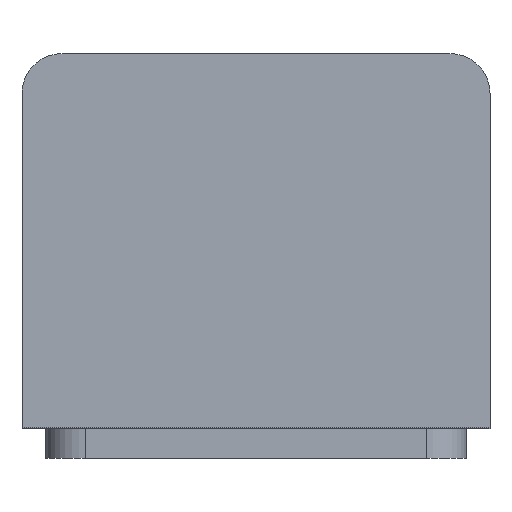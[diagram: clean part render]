
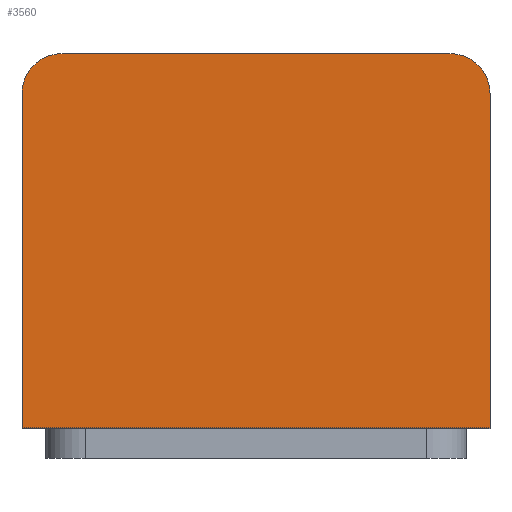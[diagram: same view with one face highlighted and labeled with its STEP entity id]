
A CAD part, top view. The second image highlights one B-rep face of the part: STEP entity #3560.
In plain terms, the highlighted planar face has unit normal (0, 0, 1).
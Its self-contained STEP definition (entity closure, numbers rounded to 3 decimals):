
#2785=FACE_OUTER_BOUND('',#4519,.T.);
#3560=ADVANCED_FACE('',(#2785),#4015,.T.);
#4015=PLANE('',#12070);
#4519=EDGE_LOOP('',(#7131,#7132,#7133,#7134,#7135,#7136));
#5051=LINE('',#14448,#5963);
#5069=LINE('',#15066,#5981);
#5078=LINE('',#15108,#5990);
#5090=LINE('',#15137,#6002);
#5963=VECTOR('',#12494,1.);
#5981=VECTOR('',#12596,1.);
#5990=VECTOR('',#12639,1.);
#6002=VECTOR('',#12665,1.);
#7131=ORIENTED_EDGE('',*,*,#10687,.T.);
#7132=ORIENTED_EDGE('',*,*,#10690,.T.);
#7133=ORIENTED_EDGE('',*,*,#10674,.T.);
#7134=ORIENTED_EDGE('',*,*,#10707,.T.);
#7135=ORIENTED_EDGE('',*,*,#10670,.T.);
#7136=ORIENTED_EDGE('',*,*,#10589,.T.);
#9629=VERTEX_POINT('',#14418);
#9644=VERTEX_POINT('',#14447);
#9716=VERTEX_POINT('',#15062);
#9718=VERTEX_POINT('',#15069);
#9721=VERTEX_POINT('',#15074);
#9731=VERTEX_POINT('',#15101);
#10589=EDGE_CURVE('',#9629,#9644,#5051,.T.);
#10670=EDGE_CURVE('',#9716,#9629,#5069,.T.);
#10674=EDGE_CURVE('',#9718,#9721,#11934,.T.);
#10687=EDGE_CURVE('',#9644,#9731,#11942,.T.);
#10690=EDGE_CURVE('',#9731,#9718,#5078,.T.);
#10707=EDGE_CURVE('',#9721,#9716,#5090,.T.);
#11934=CIRCLE('',#12046,6.);
#11942=CIRCLE('',#12058,6.);
#12046=AXIS2_PLACEMENT_3D('',#15075,#12603,#12604);
#12058=AXIS2_PLACEMENT_3D('',#15102,#12632,#12633);
#12070=AXIS2_PLACEMENT_3D('',#15157,#12681,#12682);
#12494=DIRECTION('',(0.,1.,0.));
#12596=DIRECTION('',(1.,0.,0.));
#12603=DIRECTION('',(0.,0.,1.));
#12604=DIRECTION('',(1.,0.,0.));
#12632=DIRECTION('',(0.,0.,1.));
#12633=DIRECTION('',(1.,0.,0.));
#12639=DIRECTION('',(-1.,0.,0.));
#12665=DIRECTION('',(0.,-1.,0.));
#12681=DIRECTION('',(0.,0.,1.));
#12682=DIRECTION('',(-1.,0.,0.));
#14418=CARTESIAN_POINT('',(35.,-25.,39.5));
#14447=CARTESIAN_POINT('',(35.,25.,39.5));
#14448=CARTESIAN_POINT('',(35.,25.,39.5));
#15062=CARTESIAN_POINT('',(-35.,-25.,39.5));
#15066=CARTESIAN_POINT('',(35.,-25.,39.5));
#15069=CARTESIAN_POINT('',(-29.,31.,39.5));
#15074=CARTESIAN_POINT('',(-35.,25.,39.5));
#15075=CARTESIAN_POINT('',(-29.,25.,39.5));
#15101=CARTESIAN_POINT('',(29.,31.,39.5));
#15102=CARTESIAN_POINT('',(29.,25.,39.5));
#15108=CARTESIAN_POINT('',(-29.,31.,39.5));
#15137=CARTESIAN_POINT('',(-35.,-25.,39.5));
#15157=CARTESIAN_POINT('',(29.,25.,39.5));
